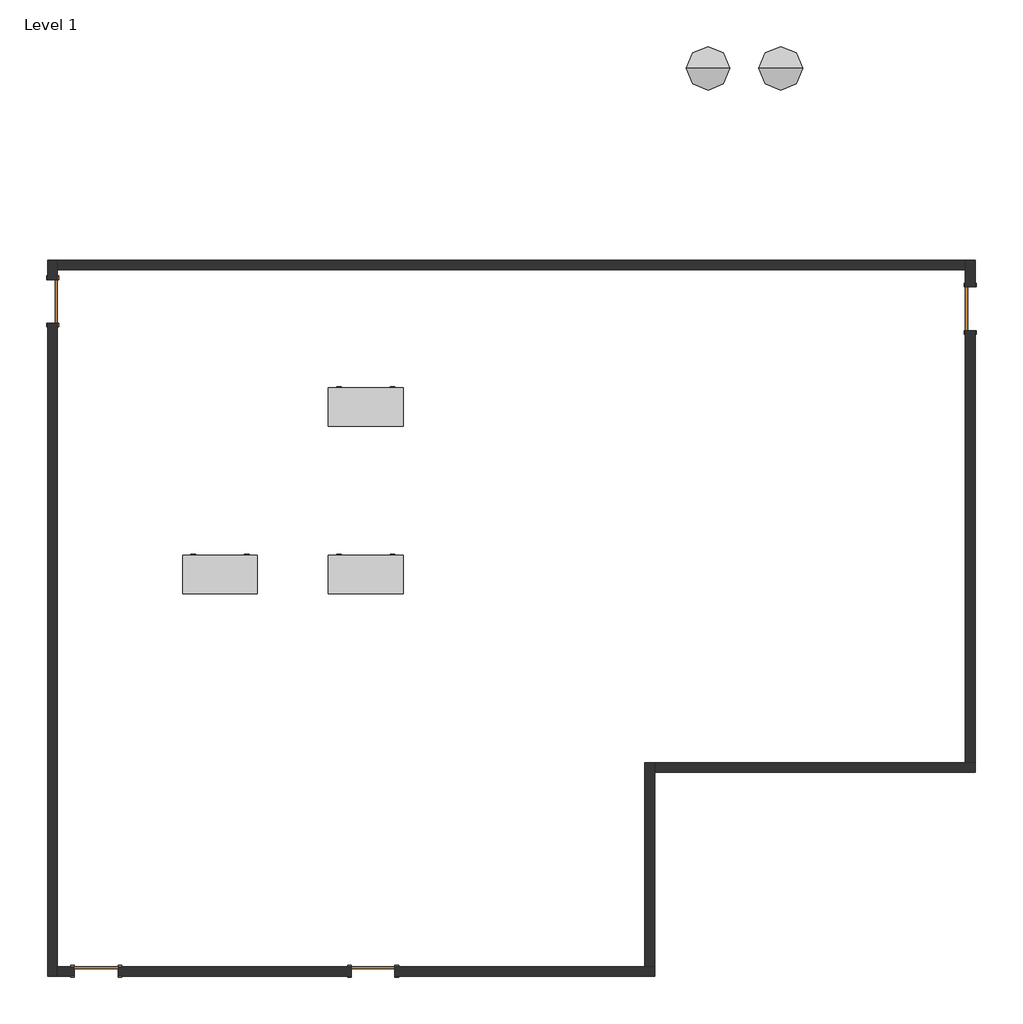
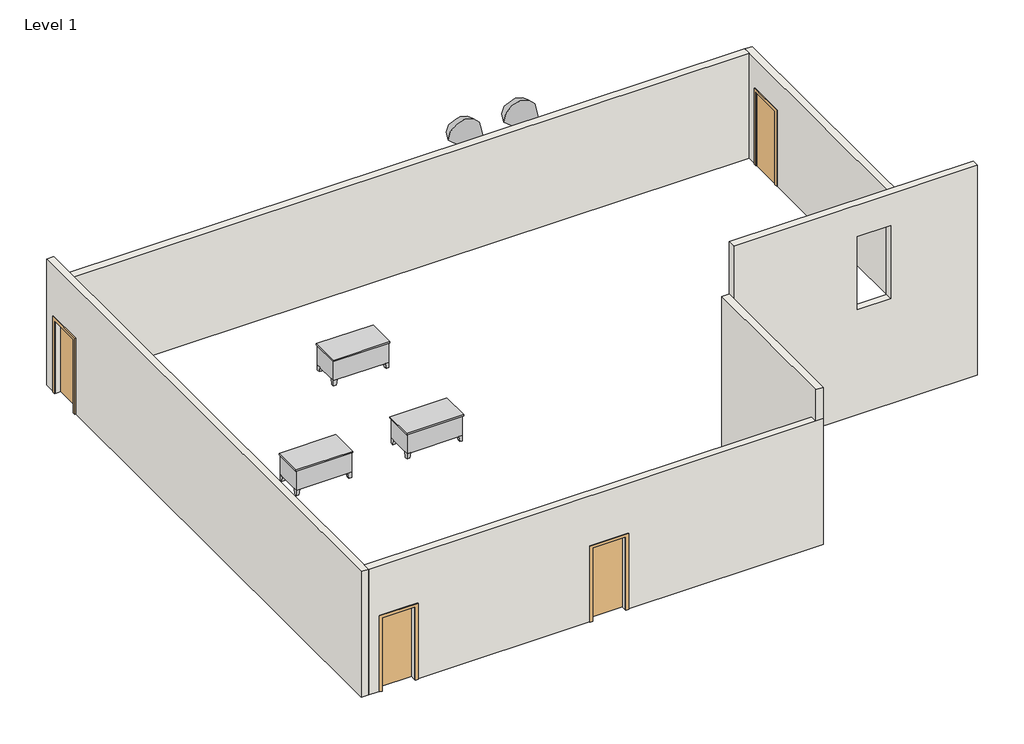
# One storey: 6 walls, 4 doors, 3 furniture elements, 2 geographic elements.
"""IFC4 building model written with IfcOpenShell, lengths in millimetres."""

from ifc_helpers import new_model, si_unit, origin, origin_with_axes, place, context, project, spatial, polyline, outline, extrude, faceted_brep, transform, mapped, element, save
from components import door_54dd4da4, door_719f80de, furniture_072f6425, geographic_element_e8c3bac9

model = new_model("IFC4")

# Units and contexts
model_context = context("Model", 3, world=origin())
ifc_project = project(units=[si_unit("LENGTHUNIT", "METRE", prefix="MILLI")], contexts=[model_context])

# Site, building, storey
site = spatial("IfcSite", under=ifc_project)
building = spatial("IfcBuilding", under=site)
storey = spatial("IfcBuildingStorey", under=building, Name="Level 1", Elevation=0.0)

# Doors
placement = place(None, origin())
door_shape = door_54dd4da4(model_context)
element("IfcDoor", 1, ObjectType="Single-Flush : 36\" x 84\"", at=placement, inside=storey, context=model_context, shape_type="MappedRepresentation", body=[
    mapped(door_shape, transform((-7073.9019194, -6001.280369, 0.0), x_axis=(1.0, 0.0, 0.0), y_axis=(0.0, 1.0, 0.0), z_axis=(0.0, 0.0, 1.0))),
])
element("IfcDoor", 2, ObjectType="Single-Flush : 36\" x 84\"", at=placement, inside=storey, context=model_context, shape_type="MappedRepresentation", body=[
    mapped(door_shape, transform((-13779.5019194, 8019.519631, 0.0), x_axis=(0.0, -1.0, 0.0), y_axis=(1.0, 0.0, 0.0), z_axis=(0.0, 0.0, 1.0))),
])
element("IfcDoor", 3, ObjectType="Single-Flush : 36\" x 84\"", at=placement, inside=storey, context=model_context, shape_type="MappedRepresentation", body=[
    mapped(door_shape, transform((-12865.1019194, -6001.280369, 0.0), x_axis=(1.0, 0.0, 0.0), y_axis=(0.0, 1.0, 0.0), z_axis=(0.0, 0.0, 1.0))),
])
door_2_shape = door_719f80de(model_context)
element("IfcDoor", 4, ObjectType="Single-Flush : 36\" x 84\"", at=placement, inside=storey, context=model_context, shape_type="MappedRepresentation", body=[
    mapped(door_2_shape, transform((5422.8980806, 7867.119631, 0.0), x_axis=(0.0, -1.0, 0.0), y_axis=(1.0, 0.0, 0.0), z_axis=(0.0, 0.0, 1.0))),
])

# Furniture
furniture_shape = furniture_072f6425(model_context)
element("IfcFurniture", 5, ObjectType="Desk : 60\" x 30\"", at=placement, inside=storey, context=model_context, shape_type="MappedRepresentation", body=[
    mapped(furniture_shape, transform((-11036.3019194, 1923.519631, 0.0), x_axis=(1.0, 0.0, 0.0), y_axis=(0.0, 1.0, 0.0), z_axis=(0.0, 0.0, 1.0))),
])
element("IfcFurniture", 6, ObjectType="Desk : 60\" x 30\"", at=placement, inside=storey, context=model_context, shape_type="MappedRepresentation", body=[
    mapped(furniture_shape, transform((-7988.3019194, 5428.719631, 0.0), x_axis=(1.0, 0.0, 0.0), y_axis=(0.0, 1.0, 0.0), z_axis=(0.0, 0.0, 1.0))),
])
element("IfcFurniture", 7, ObjectType="Desk : 60\" x 30\"", at=placement, inside=storey, context=model_context, shape_type="MappedRepresentation", body=[
    mapped(furniture_shape, transform((-7988.3019194, 1923.519631, 0.0), x_axis=(1.0, 0.0, 0.0), y_axis=(0.0, 1.0, 0.0), z_axis=(0.0, 0.0, 1.0))),
])

# Geographic elements
geographic_element_shape = geographic_element_e8c3bac9(model_context)
element("IfcGeographicElement", 8, ObjectType="Shubbery : Shubbery", at=placement, inside=storey, context=model_context, shape_type="MappedRepresentation", body=[
    mapped(geographic_element_shape, transform((1460.4980806, 12896.319631, 0.0), x_axis=(1.0, 0.0, 0.0), y_axis=(0.0, 1.0, 0.0), z_axis=(0.0, 0.0, 1.0))),
])
element("IfcGeographicElement", 9, ObjectType="Shubbery : Shubbery", at=placement, inside=storey, context=model_context, shape_type="MappedRepresentation", body=[
    mapped(geographic_element_shape, transform((-63.5019194, 12896.319631, 0.0), x_axis=(1.0, 0.0, 0.0), y_axis=(0.0, 1.0, 0.0), z_axis=(0.0, 0.0, 1.0))),
])

# Walls
element("IfcWall", 10, ObjectType="Generic - 8\"", at=placement, inside=storey, context=model_context, shape_type="Brep", body=[
    faceted_brep([(-13677.9019194, -6102.880369, 0.0), (-13677.9019194, -5899.680369, 0.0), (-13677.9019194, 7562.319631, 0.0), (-13677.9019194, 7562.319631, 2133.6), (-13677.9019194, 8476.719631, 2133.6), (-13677.9019194, 8476.719631, 0.0), (-13677.9019194, 8679.919631, 0.0), (-13677.9019194, 8883.119631, 0.0), (-13677.9019194, 8883.119631, 3048.0), (-13677.9019194, 8883.119631, 3657.6), (-13677.9019194, -5899.680369, 3657.6), (-13677.9019194, -6102.880369, 3657.6), (-13881.1019194, 7562.319631, 2133.6), (-13881.1019194, 7562.319631, 0.0), (-13881.1019194, -6102.880369, 0.0), (-13881.1019194, -6102.880369, 3657.6), (-13881.1019194, 8883.119631, 3657.6), (-13881.1019194, 8883.119631, 0.0), (-13881.1019194, 8476.719631, 0.0), (-13881.1019194, 8476.719631, 2133.6)], [[[0, 1, 2, 3, 4, 5, 6, 7, 8, 9, 10, 11]], [[12, 13, 14, 15, 16, 17, 18, 19]], [[18, 17, 7, 6, 5]], [[14, 13, 2, 1, 0]], [[11, 10, 9, 16, 15]], [[0, 11, 15, 14]], [[7, 17, 16, 9, 8]], [[3, 2, 13, 12]], [[4, 3, 12, 19]], [[5, 4, 19, 18]]]),
])
element("IfcWall", 11, ObjectType="Generic - 8\"", at=placement, inside=storey, context=model_context, shape_type="SweptSolid", body=[
    extrude(outline(polyline([(5321.2980806, 8679.919631), (-13677.9019194, 8679.919631), (-13677.9019194, 8883.119631), (5321.2980806, 8883.119631), (5321.2980806, 8679.919631)])), origin_with_axes(), (0.0, 0.0, 1.0), 3048.0),
])
element("IfcWall", 12, ObjectType="Generic - 8\"", at=placement, inside=storey, context=model_context, shape_type="Brep", body=[
    faceted_brep([(-12407.9019194, -6102.880369, 2133.6), (-12407.9019194, -6102.880369, 0.0), (-7531.1019194, -6102.880369, 0.0), (-7531.1019194, -6102.880369, 2133.6), (-6616.7019194, -6102.880369, 2133.6), (-6616.7019194, -6102.880369, 0.0), (-1181.1019194, -6102.880369, 0.0), (-1181.1019194, -6102.880369, 3657.6), (-1384.3019194, -6102.880369, 3657.6), (-13677.9019194, -6102.880369, 3657.6), (-13677.9019194, -6102.880369, 0.0), (-13322.3019194, -6102.880369, 0.0), (-13322.3019194, -6102.880369, 2133.6), (-7531.1019194, -5899.680369, 0.0), (-12407.9019194, -5899.680369, 0.0), (-12407.9019194, -5899.680369, 2133.6), (-13322.3019194, -5899.680369, 2133.6), (-13322.3019194, -5899.680369, 0.0), (-13677.9019194, -5899.680369, 0.0), (-13677.9019194, -5899.680369, 3657.6), (-1384.3019194, -5899.680369, 3657.6), (-1181.1019194, -5899.680369, 3657.6), (-1181.1019194, -5899.680369, 0.0), (-1384.3019194, -5899.680369, 0.0), (-6616.7019194, -5899.680369, 0.0), (-6616.7019194, -5899.680369, 2133.6), (-7531.1019194, -5899.680369, 2133.6)], [[[0, 1, 2, 3, 4, 5, 6, 7, 8, 9, 10, 11, 12]], [[13, 14, 15, 16, 17, 18, 19, 20, 21, 22, 23, 24, 25, 26]], [[6, 5, 24, 23, 22]], [[11, 10, 18, 17]], [[2, 1, 14, 13]], [[9, 8, 7, 21, 20, 19]], [[10, 9, 19, 18]], [[7, 6, 22, 21]], [[25, 24, 5, 4]], [[26, 25, 4, 3]], [[13, 26, 3, 2]], [[15, 14, 1, 0]], [[16, 15, 0, 12]], [[17, 16, 12, 11]]]),
])
element("IfcWall", 13, ObjectType="Generic - 8\"", at=placement, inside=storey, context=model_context, shape_type="Brep", body=[
    faceted_brep([(-1181.1019194, -5899.680369, 0.0), (-1181.1019194, -1835.680369, 0.0), (-1181.1019194, -1632.480369, 0.0), (-1181.1019194, -1632.480369, 4572.0), (-1181.1019194, -6102.880369, 4572.0), (-1181.1019194, -6102.880369, 3657.6), (-1181.1019194, -5899.680369, 3657.6), (-1384.3019194, -5899.680369, 0.0), (-1384.3019194, -5899.680369, 3657.6), (-1384.3019194, -6102.880369, 3657.6), (-1384.3019194, -6102.880369, 4572.0), (-1384.3019194, -1632.480369, 4572.0), (-1384.3019194, -1632.480369, 0.0)], [[[0, 1, 2, 3, 4, 5, 6]], [[7, 8, 9, 10, 11, 12]], [[2, 1, 0, 7, 12]], [[4, 3, 11, 10]], [[3, 2, 12, 11]], [[5, 9, 8, 6]], [[0, 6, 8, 7]], [[5, 4, 10, 9]]]),
])
element("IfcWall", 14, ObjectType="Generic - 8\"", at=placement, inside=storey, context=model_context, shape_type="Brep", body=[
    faceted_brep([(-1181.1019194, -1835.680369, 0.0), (5524.4980806, -1835.680369, 0.0), (5524.4980806, -1835.680369, 6096.0), (-1181.1019194, -1835.680369, 6096.0), (2222.4980806, -1835.680369, 3048.0), (2222.4980806, -1835.680369, 5181.6), (3136.8980806, -1835.680369, 5181.6), (3136.8980806, -1835.680369, 3048.0), (-1181.1019194, -1632.480369, 0.0), (-1181.1019194, -1632.480369, 4572.0), (-1181.1019194, -1632.480369, 6096.0), (5524.4980806, -1632.480369, 6096.0), (5524.4980806, -1632.480369, 3048.0), (5524.4980806, -1632.480369, 0.0), (5321.2980806, -1632.480369, 0.0), (2222.4980806, -1632.480369, 3048.0), (3136.8980806, -1632.480369, 3048.0), (3136.8980806, -1632.480369, 5181.6), (2222.4980806, -1632.480369, 5181.6)], [[[0, 1, 2, 3], [4, 5, 6, 7]], [[8, 9, 10, 11, 12, 13, 14], [15, 16, 17, 18]], [[1, 0, 8, 14, 13]], [[3, 2, 11, 10]], [[0, 3, 10, 9, 8]], [[2, 1, 13, 12, 11]], [[16, 15, 4, 7]], [[17, 16, 7, 6]], [[18, 17, 6, 5]], [[15, 18, 5, 4]]]),
])
element("IfcWall", 15, ObjectType="Generic - 8\"", at=placement, inside=storey, context=model_context, shape_type="Brep", body=[
    faceted_brep([(5524.4980806, -1632.480369, 0.0), (5524.4980806, 7409.919631, 0.0), (5524.4980806, 7409.919631, 2133.6), (5524.4980806, 8324.319631, 2133.6), (5524.4980806, 8324.319631, 0.0), (5524.4980806, 8883.119631, 0.0), (5524.4980806, 8883.119631, 3048.0), (5524.4980806, -1632.480369, 3048.0), (5321.2980806, 7409.919631, 2133.6), (5321.2980806, 7409.919631, 0.0), (5321.2980806, -1632.480369, 0.0), (5321.2980806, -1632.480369, 3048.0), (5321.2980806, 8679.919631, 3048.0), (5321.2980806, 8883.119631, 3048.0), (5321.2980806, 8883.119631, 0.0), (5321.2980806, 8679.919631, 0.0), (5321.2980806, 8324.319631, 0.0), (5321.2980806, 8324.319631, 2133.6)], [[[0, 1, 2, 3, 4, 5, 6, 7]], [[8, 9, 10, 11, 12, 13, 14, 15, 16, 17]], [[10, 9, 1, 0]], [[16, 15, 14, 5, 4]], [[7, 6, 13, 12, 11]], [[0, 7, 11, 10]], [[6, 5, 14, 13]], [[2, 1, 9, 8]], [[3, 2, 8, 17]], [[4, 3, 17, 16]]]),
])

save(model, "model.ifc")
